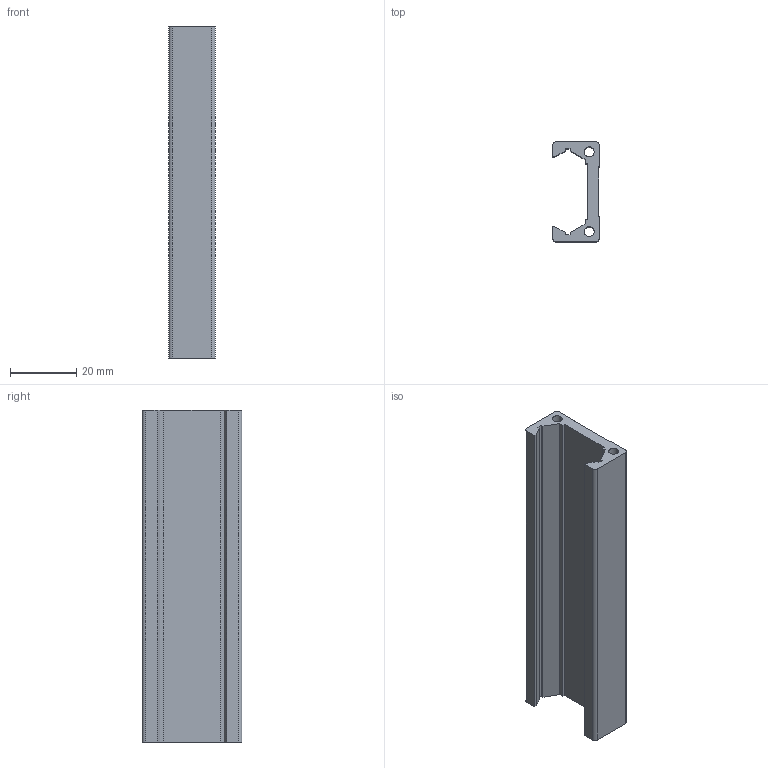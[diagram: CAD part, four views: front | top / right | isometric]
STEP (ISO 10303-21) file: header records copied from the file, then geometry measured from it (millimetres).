
FILE_DESCRIPTION (( 'STEP AP203' ), '1' );
FILE_NAME ('013.030.022.STEP', '2021-03-24T08:19:23', ( '' ), ( '' ), 'SwSTEP 2.0', 'SolidWorks 2018', '' );
FILE_SCHEMA (( 'CONFIG_CONTROL_DESIGN' ));
Length unit declared in the file: millimetre
Products named in the file (1): 013.030.022
Bounding box: 14 x 30 x 100 mm (x, y, z)
Volume: 16662.5 mm3; surface area: 13340.1 mm2
Topology: 1 solids, 1 shells, 36 faces, 102 edges, 68 vertices
Faces by surface type: plane 28, cylinder 8
Entity records: 1247 total; most frequent: CARTESIAN_POINT 207, ORIENTED_EDGE 204, DIRECTION 192, EDGE_CURVE 102, VECTOR 86, LINE 86, VERTEX_POINT 68, AXIS2_PLACEMENT_3D 53
